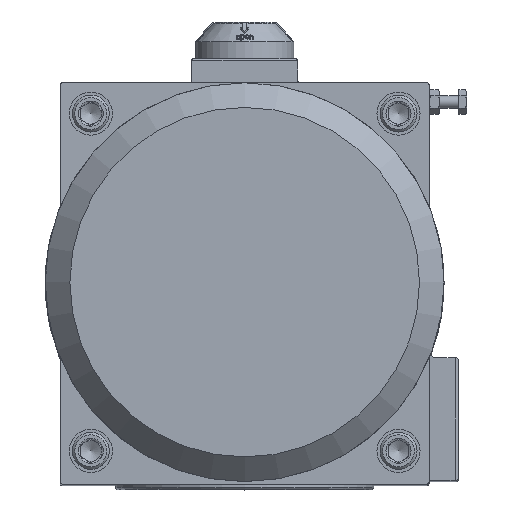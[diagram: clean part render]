
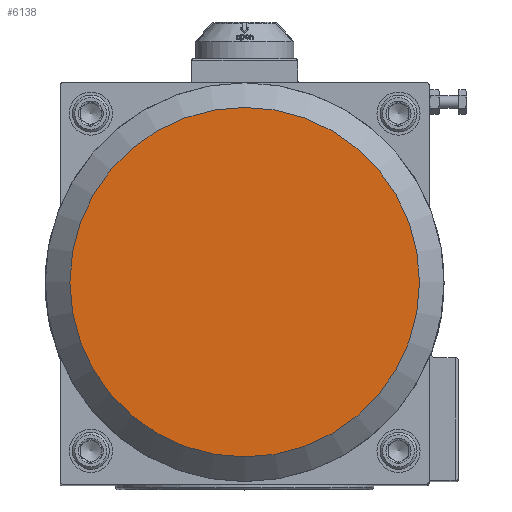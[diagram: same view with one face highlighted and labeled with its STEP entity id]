
A CAD part, top view. The second image highlights one B-rep face of the part: STEP entity #6138.
In plain terms, the highlighted planar face has unit normal (0, 0, 1).
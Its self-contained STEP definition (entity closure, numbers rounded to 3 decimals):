
#6138=ADVANCED_FACE('',(#13647),#13649,.T.);
#13647=FACE_BOUND('',#13648,.T.);
#13648=EDGE_LOOP('',(#20598));
#13649=PLANE('',#13650);
#13650=AXIS2_PLACEMENT_3D('',#13651,#13652,#13653);
#13651=CARTESIAN_POINT('',(0.,0.,380.));
#13652=DIRECTION('',(0.,0.,1.));
#13653=DIRECTION('',(1.,0.,0.));
#20598=ORIENTED_EDGE('',*,*,#23934,.T.);
#23934=EDGE_CURVE('',#27636,#27636,#27637,.T.);
#27636=VERTEX_POINT('',#50400);
#27637=CIRCLE('',#50401,142.);
#50400=CARTESIAN_POINT('',(142.,0.,380.));
#50401=AXIS2_PLACEMENT_3D('',#50402,#50403,#50404);
#50402=CARTESIAN_POINT('',(0.,0.,380.));
#50403=DIRECTION('',(0.,0.,1.));
#50404=DIRECTION('',(1.,0.,0.));
